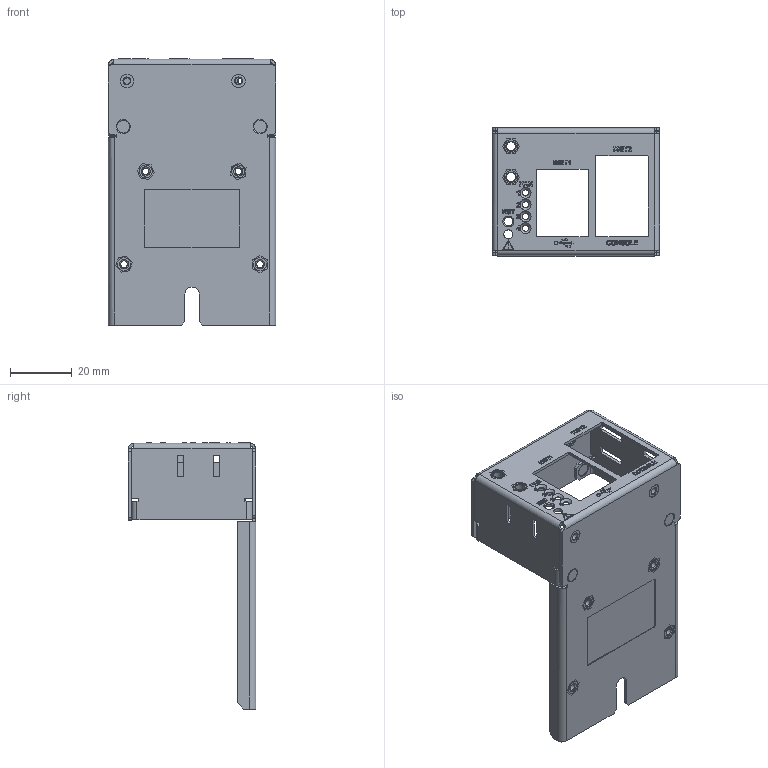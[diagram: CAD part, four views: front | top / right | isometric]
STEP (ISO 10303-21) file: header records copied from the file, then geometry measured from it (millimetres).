
FILE_DESCRIPTION((''),'2;1');
FILE_NAME('S:\Mechanic\NEPTUNE\HELP FILES\MEC007678_03.stp','2014-03-02T14:33:19',('claudioz'),(''),'Autodesk Inventor 2013','Autodesk Inventor 2013','');
FILE_SCHEMA(('AUTOMOTIVE_DESIGN { 1 0 10303 214 1 1 1 1 }'));
Products named in the file (6): MEC007678_NEPTUNE I-O MANAGE COVER; ANSI B18.1.1 - 3_32 x 3_16 x 0.08(6); sos-4116-8; PEM Self-Clinching Standoffs SO,SOS,SOA - Inch SO-440-6 ZI; PEM Miniature Self-Clinching Fasteners U,FEX,FEOX - Inch FEOX-440
Assembly tree (15 placements, depth 2):
  MEC007678_NEPTUNE I-O MANAGE COVER
    MEC007678_NEPTUNE I-O MANAGE COVER
    ANSI B18.1.1 - 3_32 x 3_16 x 0.08(6)  x4
    sos-4116-8  x2
    PEM Self-Clinching Standoffs SO,SOS,SOA - Inch SO-440-6 ZI  x4
    PEM Miniature Self-Clinching Fasteners U,FEX,FEOX - Inch FEOX-440  x4
Bounding box: 54.1 x 41.4 x 86.1 mm (x, y, z)
Volume: 9747.2 mm3; surface area: 21340.5 mm2
Topology: 15 solids, 15 shells, 817 faces, 2005 edges, 1295 vertices
Faces by surface type: plane 501, cylinder 148, bspline 123, cone 37, torus 8
Full cylindrical faces by diameter (mm): 0.2 x1, 2 x4, 2.156 x8, 2.381 x4, 2.5 x8, 2.8 x1, 2.9 x1, 2.946 x2, 3.683 x4, 3.772 x2, 3.785 x4, 3.835 x4, 3.981 x4, 4.14 x8, 4.191 x18, 4.2 x6, 4.343 x4, 4.4 x4, 4.877 x4
Entity records: 21411 total; most frequent: CARTESIAN_POINT 5079, ORIENTED_EDGE 3352, DIRECTION 2804, EDGE_CURVE 1676, VECTOR 1206, LINE 1206, VERTEX_POINT 1126, EDGE_LOOP 864
